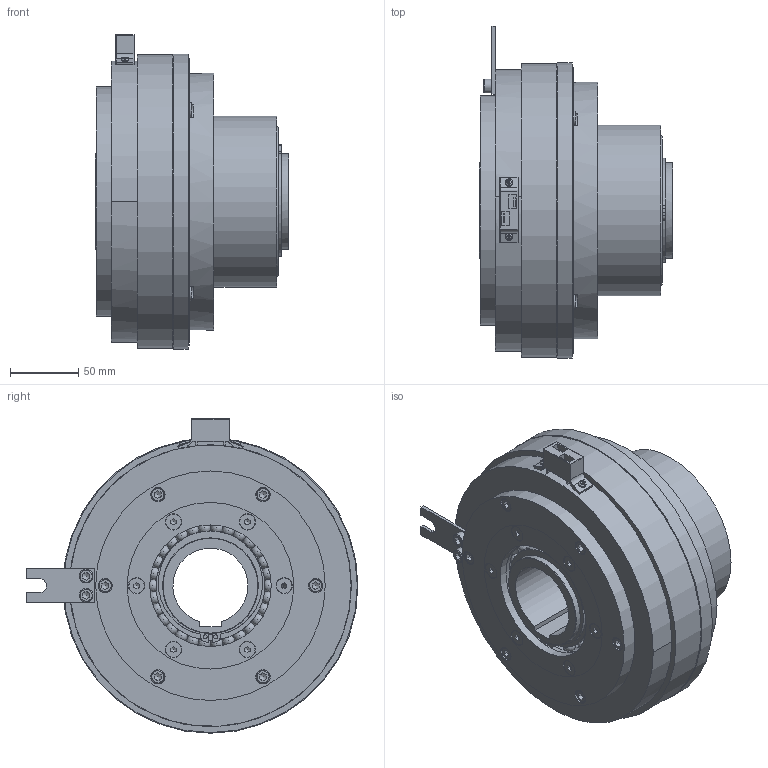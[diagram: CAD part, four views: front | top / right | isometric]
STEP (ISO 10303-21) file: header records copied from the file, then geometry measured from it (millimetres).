
FILE_DESCRIPTION(/* description */ (''),/* implementation_level */ '2;1');
FILE_NAME(/* name */ 'X:\INVENTOR\DISEGNI\08_Freni_Friz_Elettmag_Monodisco\08_26 EMSL_DF\EMSL_DF STEP\08_26_210_41 EMSL210_DF-R_S@STEP.stp',/* time_stamp */ '2018-04-24T09:50:05+02:00',/* author */ ('stefano'),/* organization */ (''),/* preprocessor_version */ 'ST-DEVELOPER v17',/* originating_system */ 'Autodesk Inventor 2018',/* authorisation */ '');
FILE_SCHEMA (('AUTOMOTIVE_DESIGN { 1 0 10303 214 3 1 1 }'));
Length unit declared in the file: millimetre
Products named in the file (1): 08_26_210_41 EMSL210_DF-R - Spina_Substitute_1
Bounding box: 142 x 243 x 230.22 mm (x, y, z)
Volume: 2204672.2 mm3; surface area: 513789.8 mm2
Topology: 1 solids, 1 shells, 1076 faces, 3443 edges, 2293 vertices
Faces by surface type: plane 389, cylinder 335, torus 194, sphere 86, cone 72
Full cylindrical faces by diameter (mm): 2 x4, 3 x4, 3.5 x2, 4.917 x10, 5.6 x2, 6 x1, 6.647 x8, 7 x4, 7.1 x4, 10 x16, 10.5 x6, 11 x4, 11.34 x6, 12 x6, 13 x8, 67 x2, 70 x5, 79.6 x4, 82 x1, 82.8 x6, 89 x1, 90.4 x4, 92 x1, 97.2 x6, 110 x5, 115 x1, 125 x1, 133 x2, 134 x2, 144 x1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
Entity records: 44885 total; most frequent: CARTESIAN_POINT 14405, ORIENTED_EDGE 6524, DIRECTION 6192, EDGE_CURVE 3262, AXIS2_PLACEMENT_3D 2615, VERTEX_POINT 2293, CIRCLE 1538, EDGE_LOOP 1389
